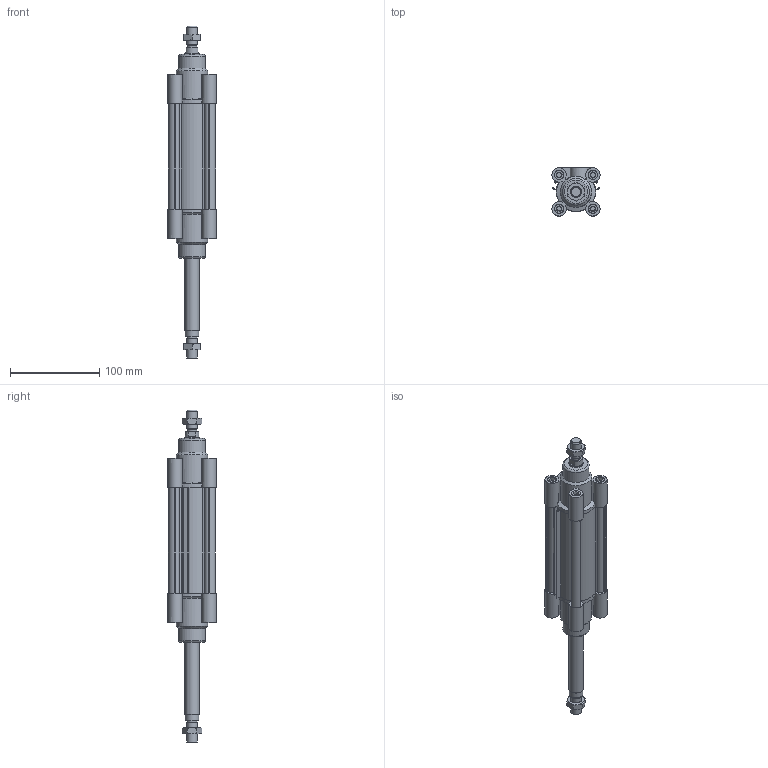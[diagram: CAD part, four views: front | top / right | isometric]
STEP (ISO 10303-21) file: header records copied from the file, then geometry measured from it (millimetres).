
FILE_DESCRIPTION((''),'2;1');
FILE_NAME('I:\Area Tecnica\Disegni\VARIE-3D\Componenti\ECOLIGHT\02\stp\139#_40_0080_02.iam.stp','2012-01-28T09:38:13',(''),(''),'Autodesk Inventor 2012','Autodesk Inventor 2012','');
FILE_SCHEMA(('AUTOMOTIVE_DESIGN { 1 0 10303 214 1 1 1 1 }'));
Length unit declared in the file: millimetre
Products named in the file (5): 139#_40_0080_02; CPL040_004-80; CPL040-001-01; CPL_40SP_0080; 1320_40_18F
Assembly tree (6 placements, depth 2):
  139#_40_0080_02
    CPL040_004-80
    CPL040-001-01  x2
    CPL_40SP_0080
    1320_40_18F  x2
Bounding box: 54 x 54 x 373 mm (x, y, z)
Volume: 331419.7 mm3; surface area: 130754.1 mm2
Topology: 6 solids, 6 shells, 351 faces, 860 edges, 564 vertices
Faces by surface type: plane 211, cylinder 98, cone 40, torus 2
Full cylindrical faces by diameter (mm): 5 x8, 5.5 x4, 8 x2, 10 x8, 10.5 x10, 10.8 x2, 11.6 x2, 12 x2, 15.5 x2, 16 x4, 30 x2, 35 x2, 40 x4
Entity records: 7104 total; most frequent: CARTESIAN_POINT 1295, DIRECTION 1162, ORIENTED_EDGE 1084, EDGE_CURVE 542, AXIS2_PLACEMENT_3D 413, VERTEX_POINT 380, VECTOR 336, LINE 336
